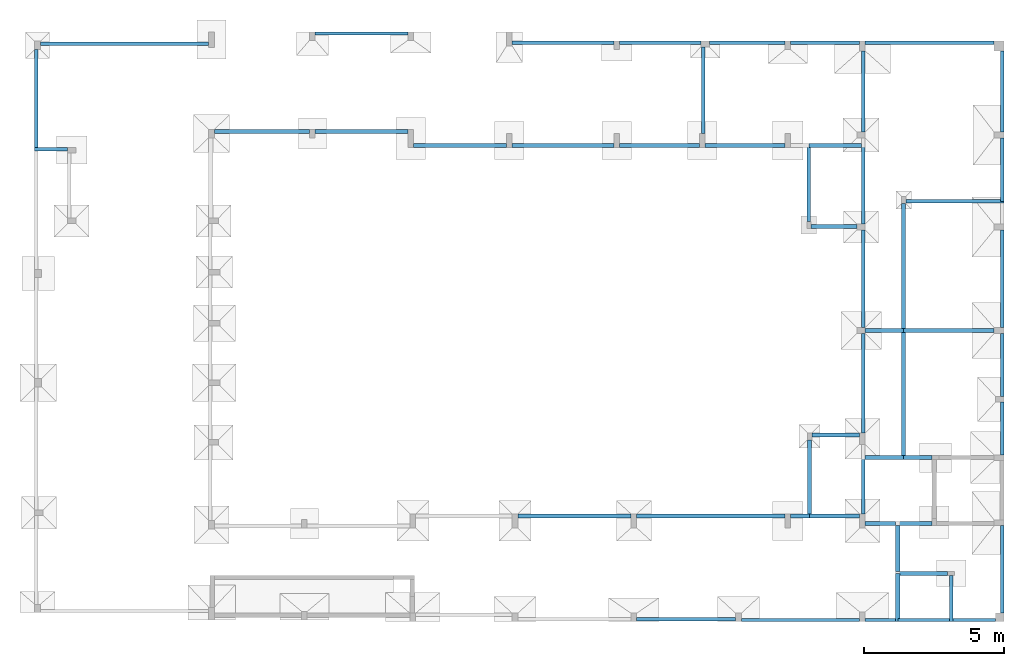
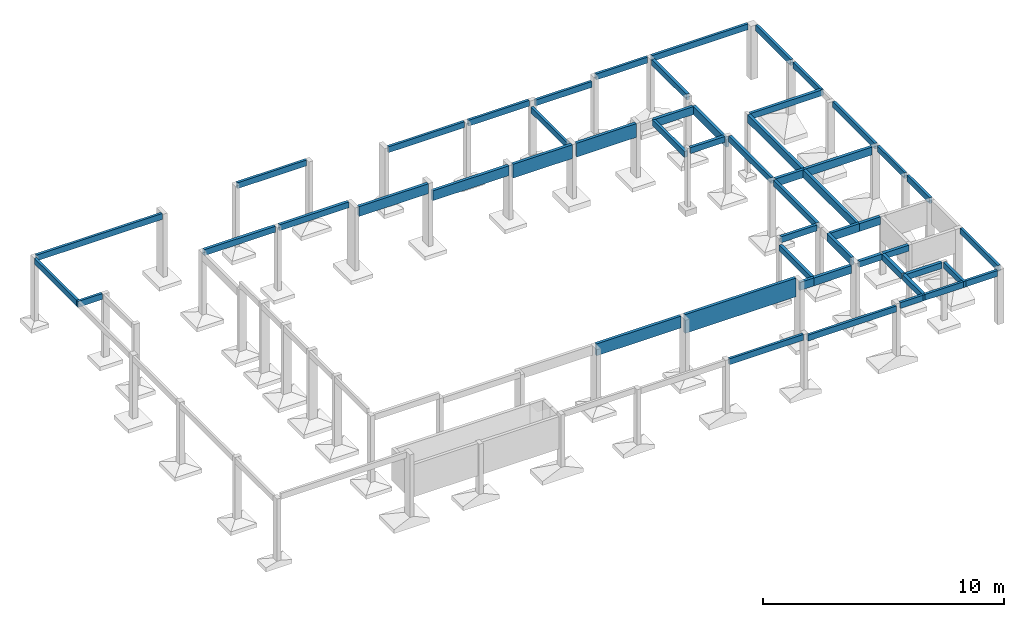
# One storey, part 2 of 5: 54 beams.
"""IFC4 building model written with IfcOpenShell, lengths in centimetres."""

from ifc_helpers import new_model, si_unit, derived_unit, frame, origin_with_axes, origin_2d_with_axis, place, context, project, spatial, rectangle, extrude, material, element, save


model = new_model("IFC4")

# Units and contexts
model_context = context("Model", 3, precision=1e-05, world=origin_with_axes(), identifier="Body")
ifc_project = project(units=[si_unit("LENGTHUNIT", "METRE", prefix="CENTI"), si_unit("VOLUMEUNIT", "CUBIC_METRE"), si_unit("AREAUNIT", "SQUARE_METRE"), si_unit("POWERUNIT", "WATT"), si_unit("LUMINOUSFLUXUNIT", "LUMEN"), si_unit("ELECTRICCURRENTUNIT", "AMPERE"), si_unit("PRESSUREUNIT", "PASCAL", prefix="KILO"), si_unit("MASSUNIT", "GRAM", prefix="KILO"), si_unit("PLANEANGLEUNIT", "RADIAN"), derived_unit("VOLUMETRICFLOWRATEUNIT", [(si_unit("LENGTHUNIT", "METRE"), 3), (si_unit("TIMEUNIT", "SECOND"), -1)])], contexts=[model_context])

# Site, building, storey
site_placement = place(None, origin_with_axes())
site = spatial("IfcSite", under=ifc_project, at=site_placement)
building_placement = place(site_placement, frame((0.0, 0.0, -295.0)))
building = spatial("IfcBuilding", under=site, at=building_placement)
placement_1 = place(building_placement, origin_with_axes())
placement_2 = place(placement_1, frame((0.0, 0.0, 101.0), z_axis=(0.0, 0.0, 1.0), x_axis=(1.0, 0.0, 0.0)))
storey_placement = place(placement_2, frame((0.0, 0.0, 204.0), z_axis=(0.0, 0.0, 1.0), x_axis=(1.0, 0.0, 0.0)))
storey = spatial("IfcBuildingStorey", under=building, at=storey_placement, Name="TÉRREO", CompositionType="ELEMENT", Elevation=10.0)

# Beams
ifc_material = material(Name="Concreto")
beam_1_placement = place(storey_placement, frame((872.815, -5113.16, 0.0), z_axis=(0.0, 0.0, 1.0), x_axis=(1.0, 0.0, 0.0)))
element("IfcBeam", 1, at=beam_1_placement, inside=storey, material=ifc_material, Name="VB1", context=model_context, shape_type="SolidModel", body=[
    extrude(rectangle(XDim=12.0, YDim=30.0, at=origin_2d_with_axis()), frame((-301.085, 0.0, -15.0), z_axis=(1.0, 0.0, 0.0), x_axis=(0.0, -1.0, 0.0)), (0.0, 0.0, 1.0), 602.17),
])
beam_2_placement = place(storey_placement, frame((3091.005, -5477.62, -44.0), z_axis=(0.0, 0.0, 1.0), x_axis=(1.0, 0.0, 0.0)))
element("IfcBeam", 2, at=beam_2_placement, inside=storey, material=ifc_material, Name="VB10", context=model_context, shape_type="SolidModel", body=[
    extrude(rectangle(XDim=14.0, YDim=70.0, at=origin_2d_with_axis()), frame((-142.725, 0.0, -35.0), z_axis=(1.0, 0.0, 0.0), x_axis=(0.0, -1.0, 0.0)), (0.0, 0.0, 1.0), 285.45),
])
beam_3_placement = place(storey_placement, frame((2785.56, -5477.62, -44.0), z_axis=(0.0, 0.0, 1.0), x_axis=(1.0, 0.0, 0.0)))
element("IfcBeam", 3, at=beam_3_placement, inside=storey, material=ifc_material, Name="VB10", context=model_context, shape_type="SolidModel", body=[
    extrude(rectangle(XDim=14.0, YDim=70.0, at=origin_2d_with_axis()), frame((-142.72, 0.0, -35.0), z_axis=(1.0, 0.0, 0.0), x_axis=(0.0, -1.0, 0.0)), (0.0, 0.0, 1.0), 285.44),
])
beam_4_placement = place(storey_placement, frame((3412.805, -5477.62, -54.0), z_axis=(0.0, 0.0, 1.0), x_axis=(1.0, 0.0, 0.0)))
element("IfcBeam", 4, at=beam_4_placement, inside=storey, material=ifc_material, Name="VB11", context=model_context, shape_type="SolidModel", body=[
    extrude(rectangle(XDim=14.0, YDim=40.0, at=origin_2d_with_axis()), frame((-93.905, 0.0, -20.0), z_axis=(1.0, 0.0, 0.0), x_axis=(0.0, -1.0, 0.0)), (0.0, 0.0, 1.0), 187.81),
])
beam_5_placement = place(storey_placement, frame((3841.24, -5676.55, -24.0), z_axis=(0.0, 0.0, 1.0), x_axis=(1.0, 0.0, 0.0)))
element("IfcBeam", 5, at=beam_5_placement, inside=storey, material=ifc_material, Name="VB12", context=model_context, shape_type="SolidModel", body=[
    extrude(rectangle(XDim=14.0, YDim=30.0, at=origin_2d_with_axis()), frame((-175.51, 0.0, -15.0), z_axis=(1.0, 0.0, 0.0), x_axis=(0.0, -1.0, 0.0)), (0.0, 0.0, 1.0), 351.02),
])
beam_6_placement = place(storey_placement, frame((3408.815, -5766.55, -24.0), z_axis=(0.0, 0.0, 1.0), x_axis=(1.0, 0.0, 0.0)))
element("IfcBeam", 6, at=beam_6_placement, inside=storey, material=ifc_material, Name="VB13", context=model_context, shape_type="SolidModel", body=[
    extrude(rectangle(XDim=14.0, YDim=30.0, at=origin_2d_with_axis()), frame((-81.915, 0.0, -15.0), z_axis=(1.0, 0.0, 0.0), x_axis=(0.0, -1.0, 0.0)), (0.0, 0.0, 1.0), 163.83),
])
beam_7_placement = place(storey_placement, frame((3819.995, -6138.55, -24.0), z_axis=(0.0, 0.0, 1.0), x_axis=(1.0, 0.0, 0.0)))
element("IfcBeam", 7, at=beam_7_placement, inside=storey, material=ifc_material, Name="VB14", context=model_context, shape_type="SolidModel", body=[
    extrude(rectangle(XDim=14.0, YDim=40.0, at=origin_2d_with_axis()), frame((-161.765, 0.0, -20.0), z_axis=(1.0, 0.0, 0.0), x_axis=(0.0, -1.0, 0.0)), (0.0, 0.0, 1.0), 323.53),
])
beam_8_placement = place(storey_placement, frame((3589.48, -6138.55, -24.0), z_axis=(0.0, 0.0, 1.0), x_axis=(1.0, 0.0, 0.0)))
element("IfcBeam", 8, at=beam_8_placement, inside=storey, material=ifc_material, Name="VB14", context=model_context, shape_type="SolidModel", body=[
    extrude(rectangle(XDim=14.0, YDim=40.0, at=origin_2d_with_axis()), frame((-68.75, 0.0, -20.0), z_axis=(1.0, 0.0, 0.0), x_axis=(0.0, -1.0, 0.0)), (0.0, 0.0, 1.0), 137.5),
])
beam_9_placement = place(storey_placement, frame((3415.23, -6512.55, -24.0), z_axis=(0.0, 0.0, 1.0), x_axis=(1.0, 0.0, 0.0)))
element("IfcBeam", 9, at=beam_9_placement, inside=storey, material=ifc_material, Name="VB15", context=model_context, shape_type="SolidModel", body=[
    extrude(rectangle(XDim=14.0, YDim=30.0, at=origin_2d_with_axis()), frame((-85.5, 0.0, -15.0), z_axis=(1.0, 0.0, 0.0), x_axis=(0.0, -1.0, 0.0)), (0.0, 0.0, 1.0), 171.0),
])
beam_10_placement = place(storey_placement, frame((3708.98, -6592.31, -24.0), z_axis=(0.0, 0.0, 1.0), x_axis=(1.0, 0.0, 0.0)))
element("IfcBeam", 10, at=beam_10_placement, inside=storey, material=ifc_material, Name="VB16", context=model_context, shape_type="SolidModel", body=[
    extrude(rectangle(XDim=14.0, YDim=40.0, at=origin_2d_with_axis()), frame((-50.75, 0.0, -20.0), z_axis=(1.0, 0.0, 0.0), x_axis=(0.0, -1.0, 0.0)), (0.0, 0.0, 1.0), 101.5),
])
beam_11_placement = place(storey_placement, frame((3589.47, -6592.31, -24.0), z_axis=(0.0, 0.0, 1.0), x_axis=(1.0, 0.0, 0.0)))
element("IfcBeam", 11, at=beam_11_placement, inside=storey, material=ifc_material, Name="VB16", context=model_context, shape_type="SolidModel", body=[
    extrude(rectangle(XDim=14.0, YDim=40.0, at=origin_2d_with_axis()), frame((-68.76, 0.0, -20.0), z_axis=(1.0, 0.0, 0.0), x_axis=(0.0, -1.0, 0.0)), (0.0, 0.0, 1.0), 137.52),
])
beam_12_placement = place(storey_placement, frame((1720.125, -5077.11, 0.0), z_axis=(0.0, 0.0, 1.0), x_axis=(1.0, 0.0, 0.0)))
element("IfcBeam", 12, at=beam_12_placement, inside=storey, material=ifc_material, Name="VB2", context=model_context, shape_type="SolidModel", body=[
    extrude(rectangle(XDim=12.0, YDim=30.0, at=origin_2d_with_axis()), frame((-165.725, 0.0, -15.0), z_axis=(1.0, 0.0, 0.0), x_axis=(0.0, -1.0, 0.0)), (0.0, 0.0, 1.0), 331.45),
])
beam_13_placement = place(storey_placement, frame((2481.165, -6801.2, -24.0), z_axis=(0.0, 0.0, 1.0), x_axis=(1.0, 0.0, 0.0)))
element("IfcBeam", 13, at=beam_13_placement, inside=storey, material=ifc_material, Name="VB20", context=model_context, shape_type="SolidModel", body=[
    extrude(rectangle(XDim=14.0, YDim=60.0, at=origin_2d_with_axis()), frame((-202.435, 0.0, -30.0), z_axis=(1.0, 0.0, 0.0), x_axis=(0.0, -1.0, 0.0)), (0.0, 0.0, 1.0), 404.87),
])
beam_14_placement = place(storey_placement, frame((2968.665, -6801.2, -24.0), z_axis=(0.0, 0.0, 1.0), x_axis=(1.0, 0.0, 0.0)))
element("IfcBeam", 14, at=beam_14_placement, inside=storey, material=ifc_material, Name="VB21", context=model_context, shape_type="SolidModel", body=[
    extrude(rectangle(XDim=14.0, YDim=95.0, at=origin_2d_with_axis()), frame((-265.065, 0.0, -47.5), z_axis=(1.0, 0.0, 0.0), x_axis=(0.0, -1.0, 0.0)), (0.0, 0.0, 1.0), 530.13),
])
beam_15_placement = place(storey_placement, frame((3411.23, -6801.2, -54.0), z_axis=(0.0, 0.0, 1.0), x_axis=(1.0, 0.0, 0.0)))
element("IfcBeam", 15, at=beam_15_placement, inside=storey, material=ifc_material, Name="VB22", context=model_context, shape_type="SolidModel", body=[
    extrude(rectangle(XDim=14.0, YDim=40.0, at=origin_2d_with_axis()), frame((-89.5, 0.0, -20.0), z_axis=(1.0, 0.0, 0.0), x_axis=(0.0, -1.0, 0.0)), (0.0, 0.0, 1.0), 179.0),
])
beam_16_placement = place(storey_placement, frame((3287.73, -6801.2, -54.0), z_axis=(0.0, 0.0, 1.0), x_axis=(1.0, 0.0, 0.0)))
element("IfcBeam", 16, at=beam_16_placement, inside=storey, material=ifc_material, Name="VB22", context=model_context, shape_type="SolidModel", body=[
    extrude(rectangle(XDim=14.0, YDim=40.0, at=origin_2d_with_axis()), frame((-34.0, 0.0, -20.0), z_axis=(1.0, 0.0, 0.0), x_axis=(0.0, -1.0, 0.0)), (0.0, 0.0, 1.0), 68.0),
])
beam_17_placement = place(storey_placement, frame((3575.24, -6828.79, -24.0), z_axis=(0.0, 0.0, 1.0), x_axis=(1.0, 0.0, 0.0)))
element("IfcBeam", 17, at=beam_17_placement, inside=storey, material=ifc_material, Name="VB23", context=model_context, shape_type="SolidModel", body=[
    extrude(rectangle(XDim=15.0, YDim=30.0, at=origin_2d_with_axis()), frame((-54.51, 0.0, -15.0), z_axis=(1.0, 0.0, 0.0), x_axis=(0.0, -1.0, 0.0)), (0.0, 0.0, 1.0), 109.02),
])
beam_18_placement = place(storey_placement, frame((3698.49, -6828.79, -24.0), z_axis=(0.0, 0.0, 1.0), x_axis=(1.0, 0.0, 0.0)))
element("IfcBeam", 18, at=beam_18_placement, inside=storey, material=ifc_material, Name="VB23", context=model_context, shape_type="SolidModel", body=[
    extrude(rectangle(XDim=15.0, YDim=30.0, at=origin_2d_with_axis()), frame((-61.24, 0.0, -15.0), z_axis=(1.0, 0.0, 0.0), x_axis=(0.0, -1.0, 0.0)), (0.0, 0.0, 1.0), 122.48),
])
beam_19_placement = place(storey_placement, frame((3726.42, -7006.81, -24.0), z_axis=(0.0, 0.0, 1.0), x_axis=(1.0, 0.0, 0.0)))
element("IfcBeam", 19, at=beam_19_placement, inside=storey, material=ifc_material, Name="VB24", context=model_context, shape_type="SolidModel", body=[
    extrude(rectangle(XDim=15.0, YDim=30.0, at=origin_2d_with_axis()), frame((-89.17, 0.0, -15.0), z_axis=(1.0, 0.0, 0.0), x_axis=(0.0, -1.0, 0.0)), (0.0, 0.0, 1.0), 178.34),
])
beam_20_placement = place(storey_placement, frame((2880.57, -7170.85, -24.0), z_axis=(0.0, 0.0, 1.0), x_axis=(1.0, 0.0, 0.0)))
element("IfcBeam", 20, at=beam_20_placement, inside=storey, material=ifc_material, Name="VB27", context=model_context, shape_type="SolidModel", body=[
    extrude(rectangle(XDim=12.0, YDim=30.0, at=origin_2d_with_axis()), frame((-176.97, 0.0, -15.0), z_axis=(1.0, 0.0, 0.0), x_axis=(0.0, -1.0, 0.0)), (0.0, 0.0, 1.0), 353.94),
])
beam_21_placement = place(storey_placement, frame((3289.135, -7173.31, -34.0), z_axis=(0.0, 0.0, 1.0), x_axis=(1.0, 0.0, 0.0)))
element("IfcBeam", 21, at=beam_21_placement, inside=storey, material=ifc_material, Name="VB28", context=model_context, shape_type="SolidModel", body=[
    extrude(rectangle(XDim=12.0, YDim=30.0, at=origin_2d_with_axis()), frame((-211.595, 0.0, -15.0), z_axis=(1.0, 0.0, 0.0), x_axis=(0.0, -1.0, 0.0)), (0.0, 0.0, 1.0), 423.19),
])
beam_22_placement = place(storey_placement, frame((3575.24, -7173.31, -24.0), z_axis=(0.0, 0.0, 1.0), x_axis=(1.0, 0.0, 0.0)))
element("IfcBeam", 22, at=beam_22_placement, inside=storey, material=ifc_material, Name="VB29", context=model_context, shape_type="SolidModel", body=[
    extrude(rectangle(XDim=12.0, YDim=30.0, at=origin_2d_with_axis()), frame((-54.51, 0.0, -15.0), z_axis=(1.0, 0.0, 0.0), x_axis=(0.0, -1.0, 0.0)), (0.0, 0.0, 1.0), 109.02),
])
beam_23_placement = place(storey_placement, frame((3732.67, -7173.31, -24.0), z_axis=(0.0, 0.0, 1.0), x_axis=(1.0, 0.0, 0.0)))
element("IfcBeam", 23, at=beam_23_placement, inside=storey, material=ifc_material, Name="VB29", context=model_context, shape_type="SolidModel", body=[
    extrude(rectangle(XDim=12.0, YDim=30.0, at=origin_2d_with_axis()), frame((-95.42, 0.0, -15.0), z_axis=(1.0, 0.0, 0.0), x_axis=(0.0, -1.0, 0.0)), (0.0, 0.0, 1.0), 190.84),
])
beam_24_placement = place(storey_placement, frame((3910.425, -7173.31, -24.0), z_axis=(0.0, 0.0, 1.0), x_axis=(1.0, 0.0, 0.0)))
element("IfcBeam", 24, at=beam_24_placement, inside=storey, material=ifc_material, Name="VB29", context=model_context, shape_type="SolidModel", body=[
    extrude(rectangle(XDim=12.0, YDim=30.0, at=origin_2d_with_axis()), frame((-76.335, 0.0, -15.0), z_axis=(1.0, 0.0, 0.0), x_axis=(0.0, -1.0, 0.0)), (0.0, 0.0, 1.0), 152.67),
])
beam_25_placement = place(storey_placement, frame((2788.06, -5110.55, -44.0), z_axis=(0.0, 0.0, 1.0), x_axis=(1.0, 0.0, 0.0)))
element("IfcBeam", 25, at=beam_25_placement, inside=storey, material=ifc_material, Name="VB3", context=model_context, shape_type="SolidModel", body=[
    extrude(rectangle(XDim=12.0, YDim=30.0, at=origin_2d_with_axis()), frame((-145.22, 0.0, -15.0), z_axis=(1.0, 0.0, 0.0), x_axis=(0.0, -1.0, 0.0)), (0.0, 0.0, 1.0), 290.44),
])
beam_26_placement = place(storey_placement, frame((2440.785, -5110.55, -44.0), z_axis=(0.0, 0.0, 1.0), x_axis=(1.0, 0.0, 0.0)))
element("IfcBeam", 26, at=beam_26_placement, inside=storey, material=ifc_material, Name="VB3", context=model_context, shape_type="SolidModel", body=[
    extrude(rectangle(XDim=12.0, YDim=30.0, at=origin_2d_with_axis()), frame((-182.055, 0.0, -15.0), z_axis=(1.0, 0.0, 0.0), x_axis=(0.0, -1.0, 0.0)), (0.0, 0.0, 1.0), 364.11),
])
beam_27_placement = place(storey_placement, frame((557.73, -5309.355, 0.0), z_axis=(0.0, 0.0, 1.0), x_axis=(1.0, 0.0, 0.0)))
element("IfcBeam", 27, at=beam_27_placement, inside=storey, material=ifc_material, Name="VB30", context=model_context, shape_type="SolidModel", body=[
    extrude(rectangle(XDim=12.0, YDim=30.0, at=origin_2d_with_axis()), frame((0.0, -174.805, -15.0), z_axis=(0.0, 1.0, 0.0), x_axis=(1.0, 0.0, 0.0)), (0.0, 0.0, 1.0), 349.61),
])
beam_28_placement = place(storey_placement, frame((2942.28, -5279.585, -74.0), z_axis=(0.0, 0.0, 1.0), x_axis=(1.0, 0.0, 0.0)))
element("IfcBeam", 28, at=beam_28_placement, inside=storey, material=ifc_material, Name="VB35", context=model_context, shape_type="SolidModel", body=[
    extrude(rectangle(XDim=12.0, YDim=30.0, at=origin_2d_with_axis()), frame((0.0, -155.035, -15.0), z_axis=(0.0, 1.0, 0.0), x_axis=(1.0, 0.0, 0.0)), (0.0, 0.0, 1.0), 310.07),
])
beam_29_placement = place(storey_placement, frame((3321.73, -6665.2, -54.0), z_axis=(0.0, 0.0, 1.0), x_axis=(1.0, 0.0, 0.0)))
element("IfcBeam", 29, at=beam_29_placement, inside=storey, material=ifc_material, Name="VB36", context=model_context, shape_type="SolidModel", body=[
    extrude(rectangle(XDim=14.0, YDim=30.0, at=origin_2d_with_axis()), frame((0.0, -136.0, -15.0), z_axis=(0.0, 1.0, 0.0), x_axis=(1.0, 0.0, 0.0)), (0.0, 0.0, 1.0), 272.0),
])
beam_30_placement = place(storey_placement, frame((3318.9, -5613.085, -54.0), z_axis=(0.0, 0.0, 1.0), x_axis=(1.0, 0.0, 0.0)))
element("IfcBeam", 30, at=beam_30_placement, inside=storey, material=ifc_material, Name="VB37", context=model_context, shape_type="SolidModel", body=[
    extrude(rectangle(XDim=14.0, YDim=30.0, at=origin_2d_with_axis()), frame((0.0, -135.465, -15.0), z_axis=(0.0, 1.0, 0.0), x_axis=(1.0, 0.0, 0.0)), (0.0, 0.0, 1.0), 270.93),
])
beam_31_placement = place(storey_placement, frame((3513.71, -6693.255, -24.0), z_axis=(0.0, 0.0, 1.0), x_axis=(1.0, 0.0, 0.0)))
element("IfcBeam", 31, at=beam_31_placement, inside=storey, material=ifc_material, Name="VB38", context=model_context, shape_type="SolidModel", body=[
    extrude(rectangle(XDim=14.0, YDim=40.0, at=origin_2d_with_axis()), frame((0.0, -100.945, -20.0), z_axis=(0.0, 1.0, 0.0), x_axis=(1.0, 0.0, 0.0)), (0.0, 0.0, 1.0), 201.89),
])
beam_32_placement = place(storey_placement, frame((3513.71, -6327.05, -24.0), z_axis=(0.0, 0.0, 1.0), x_axis=(1.0, 0.0, 0.0)))
element("IfcBeam", 32, at=beam_32_placement, inside=storey, material=ifc_material, Name="VB39", context=model_context, shape_type="SolidModel", body=[
    extrude(rectangle(XDim=14.0, YDim=30.0, at=origin_2d_with_axis()), frame((0.0, -178.5, -15.0), z_axis=(0.0, 1.0, 0.0), x_axis=(1.0, 0.0, 0.0)), (0.0, 0.0, 1.0), 357.0),
])
beam_33_placement = place(storey_placement, frame((3513.71, -5953.55, -24.0), z_axis=(0.0, 0.0, 1.0), x_axis=(1.0, 0.0, 0.0)))
element("IfcBeam", 33, at=beam_33_placement, inside=storey, material=ifc_material, Name="VB39", context=model_context, shape_type="SolidModel", body=[
    extrude(rectangle(XDim=14.0, YDim=30.0, at=origin_2d_with_axis()), frame((0.0, -175.0, -15.0), z_axis=(0.0, 1.0, 0.0), x_axis=(1.0, 0.0, 0.0)), (0.0, 0.0, 1.0), 350.0),
])
beam_34_placement = place(storey_placement, frame((3098.505, -5110.55, -54.0), z_axis=(0.0, 0.0, 1.0), x_axis=(1.0, 0.0, 0.0)))
element("IfcBeam", 34, at=beam_34_placement, inside=storey, material=ifc_material, Name="VB4", context=model_context, shape_type="SolidModel", body=[
    extrude(rectangle(XDim=12.0, YDim=30.0, at=origin_2d_with_axis()), frame((-135.225, 0.0, -15.0), z_axis=(1.0, 0.0, 0.0), x_axis=(0.0, -1.0, 0.0)), (0.0, 0.0, 1.0), 270.45),
])
beam_35_placement = place(storey_placement, frame((3513.71, -5618.085, -54.0), z_axis=(0.0, 0.0, 1.0), x_axis=(1.0, 0.0, 0.0)))
element("IfcBeam", 35, at=beam_35_placement, inside=storey, material=ifc_material, Name="VB40", context=model_context, shape_type="SolidModel", body=[
    extrude(rectangle(XDim=14.0, YDim=40.0, at=origin_2d_with_axis()), frame((0.0, -140.465, -20.0), z_axis=(0.0, 1.0, 0.0), x_axis=(1.0, 0.0, 0.0)), (0.0, 0.0, 1.0), 280.93),
])
beam_36_placement = place(storey_placement, frame((3513.71, -5284.62, -24.0), z_axis=(0.0, 0.0, 1.0), x_axis=(1.0, 0.0, 0.0)))
element("IfcBeam", 36, at=beam_36_placement, inside=storey, material=ifc_material, Name="VB41", context=model_context, shape_type="SolidModel", body=[
    extrude(rectangle(XDim=14.0, YDim=30.0, at=origin_2d_with_axis()), frame((0.0, -145.07, -15.0), z_axis=(0.0, 1.0, 0.0), x_axis=(1.0, 0.0, 0.0)), (0.0, 0.0, 1.0), 290.14),
])
beam_37_placement = place(storey_placement, frame((3637.25, -7093.06, -24.0), z_axis=(0.0, 0.0, 1.0), x_axis=(1.0, 0.0, 0.0)))
element("IfcBeam", 37, at=beam_37_placement, inside=storey, material=ifc_material, Name="VB42", context=model_context, shape_type="SolidModel", body=[
    extrude(rectangle(XDim=15.0, YDim=30.0, at=origin_2d_with_axis()), frame((0.0, -86.25, -15.0), z_axis=(0.0, 1.0, 0.0), x_axis=(1.0, 0.0, 0.0)), (0.0, 0.0, 1.0), 172.5),
])
beam_38_placement = place(storey_placement, frame((3637.25, -6917.8, -24.0), z_axis=(0.0, 0.0, 1.0), x_axis=(1.0, 0.0, 0.0)))
element("IfcBeam", 38, at=beam_38_placement, inside=storey, material=ifc_material, Name="VB42", context=model_context, shape_type="SolidModel", body=[
    extrude(rectangle(XDim=15.0, YDim=30.0, at=origin_2d_with_axis()), frame((0.0, -81.51, -15.0), z_axis=(0.0, 1.0, 0.0), x_axis=(1.0, 0.0, 0.0)), (0.0, 0.0, 1.0), 163.02),
])
beam_39_placement = place(storey_placement, frame((3658.23, -5911.55, -24.0), z_axis=(0.0, 0.0, 1.0), x_axis=(1.0, 0.0, 0.0)))
element("IfcBeam", 39, at=beam_39_placement, inside=storey, material=ifc_material, Name="VB43", context=model_context, shape_type="SolidModel", body=[
    extrude(rectangle(XDim=14.0, YDim=40.0, at=origin_2d_with_axis()), frame((0.0, -227.0, -20.0), z_axis=(0.0, 1.0, 0.0), x_axis=(1.0, 0.0, 0.0)), (0.0, 0.0, 1.0), 454.0),
])
beam_40_placement = place(storey_placement, frame((3658.23, -6365.43, -24.0), z_axis=(0.0, 0.0, 1.0), x_axis=(1.0, 0.0, 0.0)))
element("IfcBeam", 40, at=beam_40_placement, inside=storey, material=ifc_material, Name="VB43", context=model_context, shape_type="SolidModel", body=[
    extrude(rectangle(XDim=14.0, YDim=40.0, at=origin_2d_with_axis()), frame((0.0, -226.88, -20.0), z_axis=(0.0, 1.0, 0.0), x_axis=(1.0, 0.0, 0.0)), (0.0, 0.0, 1.0), 453.76),
])
beam_41_placement = place(storey_placement, frame((3828.09, -7096.81, -24.0), z_axis=(0.0, 0.0, 1.0), x_axis=(1.0, 0.0, 0.0)))
element("IfcBeam", 41, at=beam_41_placement, inside=storey, material=ifc_material, Name="VB44", context=model_context, shape_type="SolidModel", body=[
    extrude(rectangle(XDim=12.0, YDim=30.0, at=origin_2d_with_axis()), frame((0.0, -82.5, -15.0), z_axis=(0.0, 1.0, 0.0), x_axis=(1.0, 0.0, 0.0)), (0.0, 0.0, 1.0), 165.0),
])
beam_42_placement = place(storey_placement, frame((4010.75, -6992.8, -24.0), z_axis=(0.0, 0.0, 1.0), x_axis=(1.0, 0.0, 0.0)))
element("IfcBeam", 42, at=beam_42_placement, inside=storey, material=ifc_material, Name="VB45", context=model_context, shape_type="SolidModel", body=[
    extrude(rectangle(XDim=12.0, YDim=30.0, at=origin_2d_with_axis()), frame((0.0, -156.51, -15.0), z_axis=(0.0, 1.0, 0.0), x_axis=(1.0, 0.0, 0.0)), (0.0, 0.0, 1.0), 313.02),
])
beam_43_placement = place(storey_placement, frame((4010.75, -5284.62, -24.0), z_axis=(0.0, 0.0, 1.0), x_axis=(1.0, 0.0, 0.0)))
element("IfcBeam", 43, at=beam_43_placement, inside=storey, material=ifc_material, Name="VB46", context=model_context, shape_type="SolidModel", body=[
    extrude(rectangle(XDim=12.0, YDim=30.0, at=origin_2d_with_axis()), frame((0.0, -145.07, -15.0), z_axis=(0.0, 1.0, 0.0), x_axis=(1.0, 0.0, 0.0)), (0.0, 0.0, 1.0), 290.14),
])
beam_44_placement = place(storey_placement, frame((4010.75, -5953.55, -24.0), z_axis=(0.0, 0.0, 1.0), x_axis=(1.0, 0.0, 0.0)))
element("IfcBeam", 44, at=beam_44_placement, inside=storey, material=ifc_material, Name="VB46", context=model_context, shape_type="SolidModel", body=[
    extrude(rectangle(XDim=12.0, YDim=30.0, at=origin_2d_with_axis()), frame((0.0, -175.0, -15.0), z_axis=(0.0, 1.0, 0.0), x_axis=(1.0, 0.0, 0.0)), (0.0, 0.0, 1.0), 350.0),
])
beam_45_placement = place(storey_placement, frame((4010.75, -6261.6, -24.0), z_axis=(0.0, 0.0, 1.0), x_axis=(1.0, 0.0, 0.0)))
element("IfcBeam", 45, at=beam_45_placement, inside=storey, material=ifc_material, Name="VB46", context=model_context, shape_type="SolidModel", body=[
    extrude(rectangle(XDim=12.0, YDim=30.0, at=origin_2d_with_axis()), frame((0.0, -113.05, -15.0), z_axis=(0.0, 1.0, 0.0), x_axis=(1.0, 0.0, 0.0)), (0.0, 0.0, 1.0), 226.1),
])
beam_46_placement = place(storey_placement, frame((4010.75, -6488.73, -24.0), z_axis=(0.0, 0.0, 1.0), x_axis=(1.0, 0.0, 0.0)))
element("IfcBeam", 46, at=beam_46_placement, inside=storey, material=ifc_material, Name="VB46", context=model_context, shape_type="SolidModel", body=[
    extrude(rectangle(XDim=12.0, YDim=30.0, at=origin_2d_with_axis()), frame((0.0, -94.08, -15.0), z_axis=(0.0, 1.0, 0.0), x_axis=(1.0, 0.0, 0.0)), (0.0, 0.0, 1.0), 188.16),
])
beam_47_placement = place(storey_placement, frame((4010.75, -5563.12, -24.0), z_axis=(0.0, 0.0, 1.0), x_axis=(1.0, 0.0, 0.0)))
element("IfcBeam", 47, at=beam_47_placement, inside=storey, material=ifc_material, Name="VB46", context=model_context, shape_type="SolidModel", body=[
    extrude(rectangle(XDim=12.0, YDim=30.0, at=origin_2d_with_axis()), frame((0.0, -113.43, -15.0), z_axis=(0.0, 1.0, 0.0), x_axis=(1.0, 0.0, 0.0)), (0.0, 0.0, 1.0), 226.86),
])
beam_48_placement = place(storey_placement, frame((3751.245, -5110.55, -24.0), z_axis=(0.0, 0.0, 1.0), x_axis=(1.0, 0.0, 0.0)))
element("IfcBeam", 48, at=beam_48_placement, inside=storey, material=ifc_material, Name="VB5", context=model_context, shape_type="SolidModel", body=[
    extrude(rectangle(XDim=12.0, YDim=30.0, at=origin_2d_with_axis()), frame((-230.515, 0.0, -15.0), z_axis=(1.0, 0.0, 0.0), x_axis=(0.0, -1.0, 0.0)), (0.0, 0.0, 1.0), 461.03),
])
beam_49_placement = place(storey_placement, frame((3377.23, -5110.55, -24.0), z_axis=(0.0, 0.0, 1.0), x_axis=(1.0, 0.0, 0.0)))
element("IfcBeam", 49, at=beam_49_placement, inside=storey, material=ifc_material, Name="VB5", context=model_context, shape_type="SolidModel", body=[
    extrude(rectangle(XDim=12.0, YDim=30.0, at=origin_2d_with_axis()), frame((-123.5, 0.0, -15.0), z_axis=(1.0, 0.0, 0.0), x_axis=(0.0, -1.0, 0.0)), (0.0, 0.0, 1.0), 247.0),
])
beam_50_placement = place(storey_placement, frame((1720.125, -5426.69, 0.0), z_axis=(0.0, 0.0, 1.0), x_axis=(1.0, 0.0, 0.0)))
element("IfcBeam", 50, at=beam_50_placement, inside=storey, material=ifc_material, Name="VB6", context=model_context, shape_type="SolidModel", body=[
    extrude(rectangle(XDim=14.0, YDim=30.0, at=origin_2d_with_axis()), frame((-165.725, 0.0, -15.0), z_axis=(1.0, 0.0, 0.0), x_axis=(0.0, -1.0, 0.0)), (0.0, 0.0, 1.0), 331.45),
])
beam_51_placement = place(storey_placement, frame((1364.15, -5426.69, 0.0), z_axis=(0.0, 0.0, 1.0), x_axis=(1.0, 0.0, 0.0)))
element("IfcBeam", 51, at=beam_51_placement, inside=storey, material=ifc_material, Name="VB6", context=model_context, shape_type="SolidModel", body=[
    extrude(rectangle(XDim=14.0, YDim=30.0, at=origin_2d_with_axis()), frame((-170.25, 0.0, -15.0), z_axis=(1.0, 0.0, 0.0), x_axis=(0.0, -1.0, 0.0)), (0.0, 0.0, 1.0), 340.5),
])
beam_52_placement = place(storey_placement, frame((610.33, -5490.16, 0.0), z_axis=(0.0, 0.0, 1.0), x_axis=(1.0, 0.0, 0.0)))
element("IfcBeam", 52, at=beam_52_placement, inside=storey, material=ifc_material, Name="VB7", context=model_context, shape_type="SolidModel", body=[
    extrude(rectangle(XDim=12.0, YDim=30.0, at=origin_2d_with_axis()), frame((-58.6, 0.0, -15.0), z_axis=(1.0, 0.0, 0.0), x_axis=(0.0, -1.0, 0.0)), (0.0, 0.0, 1.0), 117.2),
])
beam_53_placement = place(storey_placement, frame((2072.29, -5477.62, 0.0), z_axis=(0.0, 0.0, 1.0), x_axis=(1.0, 0.0, 0.0)))
element("IfcBeam", 53, at=beam_53_placement, inside=storey, material=ifc_material, Name="VB8", context=model_context, shape_type="SolidModel", body=[
    extrude(rectangle(XDim=14.0, YDim=50.0, at=origin_2d_with_axis()), frame((-166.44, 0.0, -25.0), z_axis=(1.0, 0.0, 0.0), x_axis=(0.0, -1.0, 0.0)), (0.0, 0.0, 1.0), 332.88),
])
beam_54_placement = place(storey_placement, frame((2440.785, -5477.62, -44.0), z_axis=(0.0, 0.0, 1.0), x_axis=(1.0, 0.0, 0.0)))
element("IfcBeam", 54, at=beam_54_placement, inside=storey, material=ifc_material, Name="VB9", context=model_context, shape_type="SolidModel", body=[
    extrude(rectangle(XDim=14.0, YDim=50.0, at=origin_2d_with_axis()), frame((-182.055, 0.0, -25.0), z_axis=(1.0, 0.0, 0.0), x_axis=(0.0, -1.0, 0.0)), (0.0, 0.0, 1.0), 364.11),
])

save(model, "model.ifc")
